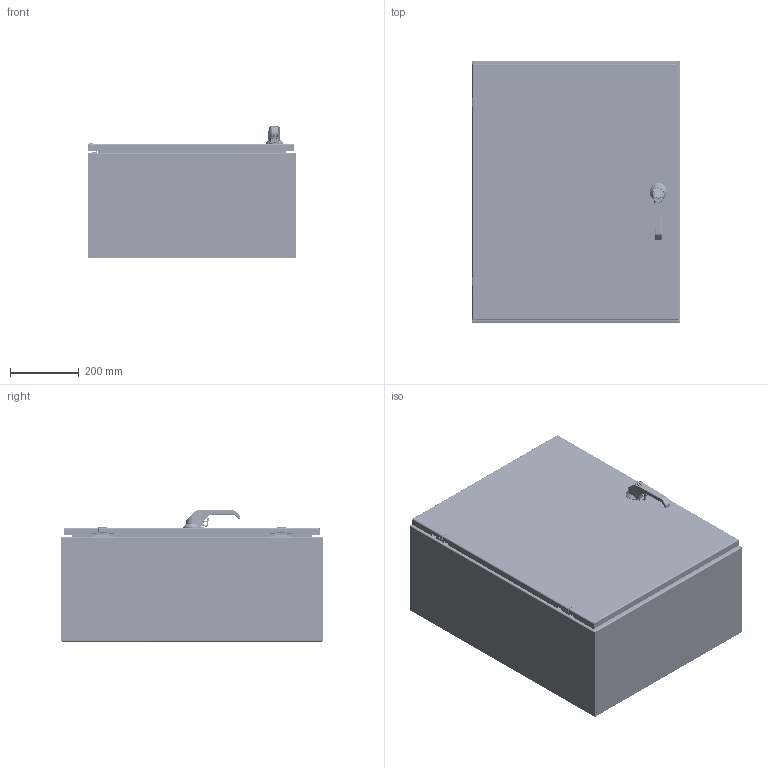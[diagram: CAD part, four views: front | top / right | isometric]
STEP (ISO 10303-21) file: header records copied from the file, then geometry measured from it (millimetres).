
FILE_DESCRIPTION((''),'2;1');
FILE_NAME('MODEL-300_ASM','2026-04-06T08:31:44',('richards'),('SAGINAW CONTROL & ENGINEERING'),'CREO PARAMETRIC BY PTC INC, 2021284','CREO PARAMETRIC BY PTC INC, 2021284','');
FILE_SCHEMA(('AUTOMOTIVE_DESIGN { 1 0 10303 214 1 1 1 1 }'));
Length unit declared in the file: inch
Products named in the file (58): MODEL-300-BDY; MODEL-300-TP; MODEL-300-BTM; MODEL-300-DR; 100837; 100882; 111267; 125597; MODEL-300-ROD-UPR; 128146; 128145; 128144; 102482; MODEL-300-ROD-UPR_ASM; 128143; 112504; MODEL-300-ROD-LWR; MODEL-300-ROD-LWR_ASM; 100955_SCREW_MTG; 100955_PADLOCK_CATCH; 100955_SCREW_LARGE; 100955_INSERT_SHAFT; 100955_INSERT_PKH; 100955_GASKET; 100955_O-RING; 100955_BASE; 100955_SPRING; 100955_HANDLE; 100955_CAM_SHAFT; 100955_HANDLE_ASM; 100955_CAM_ADAPTER; 100955_EARTH_NUT; 100955_FLANGE_NUT; 100955_CAM_NUT; 100955_KEY_INSERT; 100955_SPRING_CAM; 100955_TORSION_SPRING; 100955_SCREW_INSERT; 100955_ASM; 128142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
Assembly tree (92 placements, depth 5):
  MODEL-300_ASM
    MODEL-300-BDY
    MODEL-300-TP
    MODEL-300-BTM
    MODEL-300-DOOR-ASSY_ASM
      MODEL-300-DR
      100837  x5
      100882  x4
      111267
      125597
      MODEL-300-ROD-UPR_ASM
        MODEL-300-ROD-UPR
        128146
        128145
        128144
        102482  x2
      128143  x2
      112504  x2
      MODEL-300-ROD-LWR_ASM
        MODEL-300-ROD-LWR
        128146
        128145
        128144
        102482  x2
      100955_ASM
        100955_SCREW_MTG
        100955_PADLOCK_CATCH
        100955_SCREW_LARGE  x2
        100955_INSERT_SHAFT
        100955_INSERT_PKH
        100955_GASKET
        100955_O-RING
        100955_BASE
        100955_SPRING
        100955_HANDLE_ASM
          100955_HANDLE
          100955_CAM_SHAFT
        100955_CAM_ADAPTER
        100955_EARTH_NUT
        100955_FLANGE_NUT
        100955_CAM_NUT
        100955_KEY_INSERT
        100955_SPRING_CAM
        100955_TORSION_SPRING
        100955_SCREW_INSERT
      128142_ASM
        128142
        100030  x2
      MODEL-300-POUR-GSKT
      126392_ASM  x2
        126392
      126395  x2
      102483  x6
      101389  x2
      101226  x2
      102140  x2
      132757  x2
    100837
    101653  x4
    122191
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Bounding box: 609.6 x 762 x 383.3 mm (x, y, z)
Volume: 5611255.4 mm3; surface area: 5126797.5 mm2
Topology: 89 solids, 89 shells, 8486 faces, 21290 edges, 12953 vertices
Faces by surface type: plane 2987, cylinder 2195, bspline 1618, torus 767, cone 607, sphere 282, extrusion 30
Entity records: 334791 total; most frequent: CARTESIAN_POINT 139405, ORIENTED_EDGE 30746, DIRECTION 27420, PRESENTATION_STYLE_ASSIGNMENT 15434, STYLED_ITEM 15427, CURVE_STYLE 15373, EDGE_CURVE 15373, AXIS2_PLACEMENT_3D 10165
